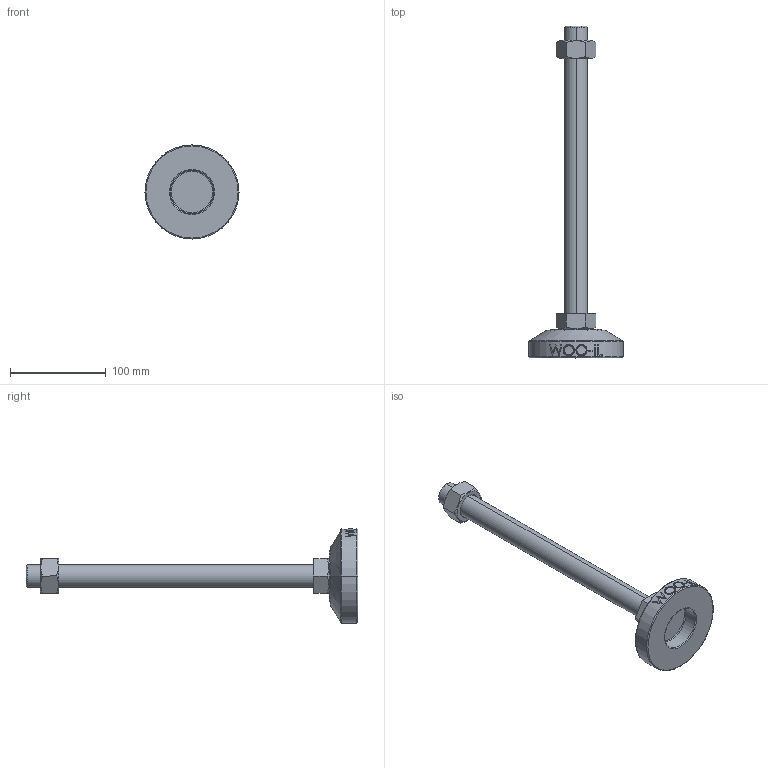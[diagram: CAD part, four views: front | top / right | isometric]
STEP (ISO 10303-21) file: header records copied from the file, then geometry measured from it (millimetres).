
FILE_DESCRIPTION (( 'STEP AP214' ), '1' );
FILE_NAME ('MF98-M24-300.step', '2021-02-03T08:23:47', ( '' ), ( '' ), 'SwSTEP 2.0', 'SolidWorks 2019', '' );
FILE_SCHEMA (( 'AUTOMOTIVE_DESIGN' ));
Length unit declared in the file: millimetre
Products named in the file (2): MF98-M24-300
Bounding box: 98 x 346 x 98 mm (x, y, z)
Volume: 332680.4 mm3; surface area: 54978.9 mm2
Topology: 3 solids, 3 shells, 106 faces, 243 edges, 154 vertices
Faces by surface type: plane 48, cylinder 18, bspline 16, cone 14, torus 10
Entity records: 4702 total; most frequent: CARTESIAN_POINT 2359, ORIENTED_EDGE 486, DIRECTION 439, EDGE_CURVE 243, AXIS2_PLACEMENT_3D 170, VERTEX_POINT 154, EDGE_LOOP 119, FACE_OUTER_BOUND 106
